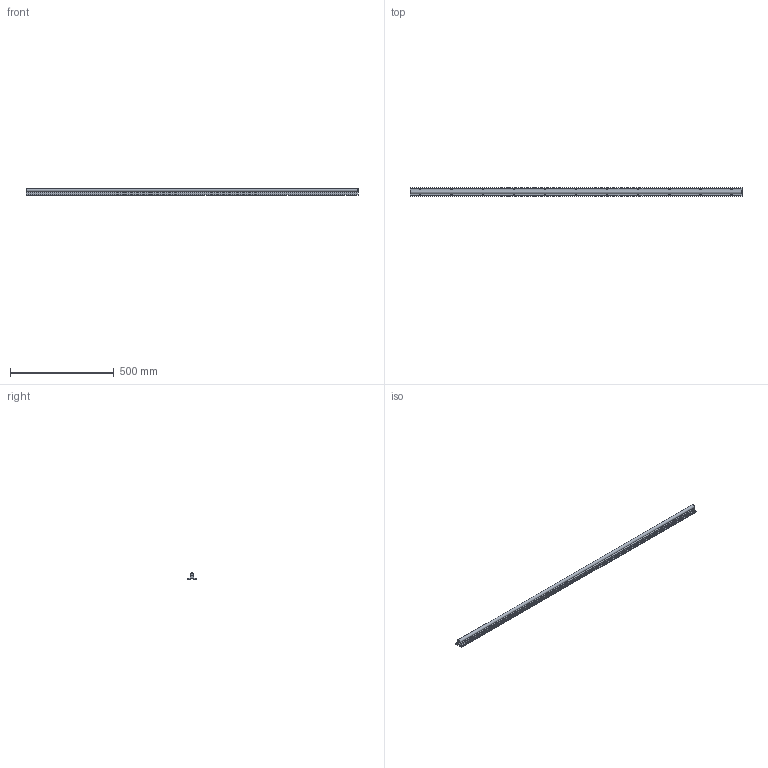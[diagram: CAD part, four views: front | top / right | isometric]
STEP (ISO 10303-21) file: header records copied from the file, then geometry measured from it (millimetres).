
FILE_DESCRIPTION(/* description */ (''),/* implementation_level */ '2;1');
FILE_NAME(/* name */ 'C:\Users\David\Desktop\stepFiles\Profilfuehrung\LFS16x1600.stp',/* time_stamp */ '2018-06-24T15:18:20+02:00',/* author */ ('Buskamp'),/* organization */ (''),/* preprocessor_version */ 'ST-DEVELOPER v17',/* originating_system */ 'Autodesk Inventor 2019',/* authorisation */ '');
FILE_SCHEMA (('AUTOMOTIVE_DESIGN { 1 0 10303 214 3 1 1 }'));
Length unit declared in the file: millimetre
Products named in the file (1): Linearführung D16xvariabel
Bounding box: 1600 x 40 x 32.97 mm (x, y, z)
Volume: 817036.4 mm3; surface area: 251146.8 mm2
Topology: 1 solids, 1 shells, 132 faces, 446 edges, 294 vertices
Faces by surface type: plane 91, cylinder 23, cone 18
Full cylindrical faces by diameter (mm): 5.5 x22
Entity records: 4995 total; most frequent: CARTESIAN_POINT 945, ORIENTED_EDGE 892, DIRECTION 850, EDGE_CURVE 446, AXIS2_PLACEMENT_3D 307, VERTEX_POINT 294, LINE 236, VECTOR 236
